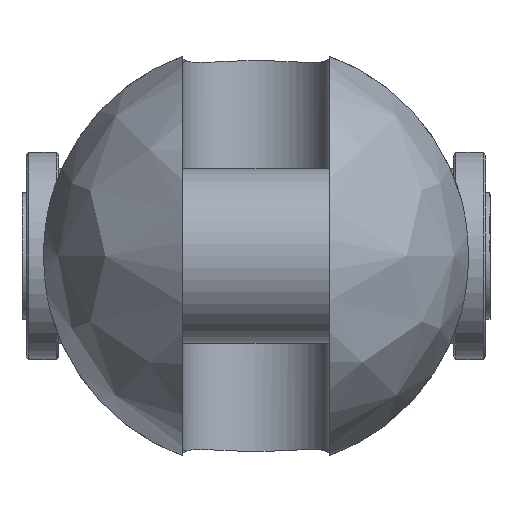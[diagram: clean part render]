
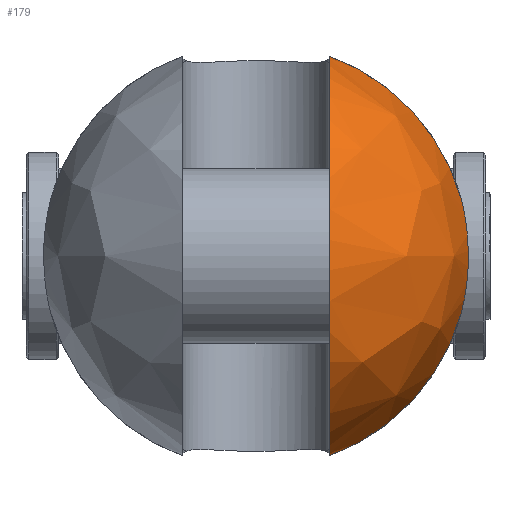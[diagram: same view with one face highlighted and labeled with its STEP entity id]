
A CAD part, left-side view. The second image highlights one B-rep face of the part: STEP entity #179.
In plain terms, the highlighted free-form (B-spline) face has degree [2, 2] with [9, 5] control points.
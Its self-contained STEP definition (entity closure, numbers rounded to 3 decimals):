
#179=ADVANCED_FACE('',(#320),#2417,.T.);
#320=FACE_OUTER_BOUND('',#481,.T.);
#481=EDGE_LOOP('',(#1194,#1195,#1196,#1197));
#1194=ORIENTED_EDGE('',*,*,#1575,.T.);
#1195=ORIENTED_EDGE('',*,*,#1603,.F.);
#1196=ORIENTED_EDGE('',*,*,#1615,.T.);
#1197=ORIENTED_EDGE('',*,*,#1595,.F.);
#1575=EDGE_CURVE('',#2249,#2248,#1983,.T.);
#1595=EDGE_CURVE('',#2249,#2261,#1993,.T.);
#1603=EDGE_CURVE('',#2268,#2248,#1994,.T.);
#1615=EDGE_CURVE('',#2268,#2261,#1789,.T.);
#1789=B_SPLINE_CURVE_WITH_KNOTS('',3,(#6107,#6108,#6109,#6110,#6111,#6112,
#6113,#6114,#6115,#6116,#6117,#6118,#6119,#6120),.UNSPECIFIED.,.F.,.F.,
(4,2,2,2,2,2,4),(0.,1.605,6.417,11.229,
16.04,20.852,22.457),.UNSPECIFIED.);
#1983=(
BOUNDED_CURVE()
B_SPLINE_CURVE(2,(#5883,#5884,#5885,#5886,#5887),.UNSPECIFIED.,.F.,.F.)
B_SPLINE_CURVE_WITH_KNOTS((3,2,3),(-114.948,-57.474,
0.),.UNSPECIFIED.)
CURVE()
GEOMETRIC_REPRESENTATION_ITEM()
RATIONAL_B_SPLINE_CURVE((1.,0.707,1.,0.707,1.))
REPRESENTATION_ITEM('')
);
#1993=(
BOUNDED_CURVE()
B_SPLINE_CURVE(2,(#5977,#5978,#5979),.UNSPECIFIED.,.F.,.F.)
B_SPLINE_CURVE_WITH_KNOTS((3,3),(0.,36.808),.UNSPECIFIED.)
CURVE()
GEOMETRIC_REPRESENTATION_ITEM()
RATIONAL_B_SPLINE_CURVE((1.,0.891,1.))
REPRESENTATION_ITEM('')
);
#1994=(
BOUNDED_CURVE()
B_SPLINE_CURVE(2,(#6034,#6035,#6036),.UNSPECIFIED.,.F.,.F.)
B_SPLINE_CURVE_WITH_KNOTS((3,3),(0.,36.808),.UNSPECIFIED.)
CURVE()
GEOMETRIC_REPRESENTATION_ITEM()
RATIONAL_B_SPLINE_CURVE((1.,0.891,1.))
REPRESENTATION_ITEM('')
);
#2248=VERTEX_POINT('',#5767);
#2249=VERTEX_POINT('',#5768);
#2261=VERTEX_POINT('',#5780);
#2268=VERTEX_POINT('',#5787);
#2417=(
BOUNDED_SURFACE()
B_SPLINE_SURFACE(2,2,((#5481,#5482,#5483,#5484,#5485),(#5486,#5487,#5488,
#5489,#5490),(#5491,#5492,#5493,#5494,#5495),(#5496,#5497,#5498,#5499,#5500),
(#5501,#5502,#5503,#5504,#5505),(#5506,#5507,#5508,#5509,#5510),(#5511,
#5512,#5513,#5514,#5515),(#5516,#5517,#5518,#5519,#5520),(#5521,#5522,#5523,
#5524,#5525)),.UNSPECIFIED.,.T.,.F.,.F.)
B_SPLINE_SURFACE_WITH_KNOTS((3,2,2,2,3),(3,2,3),(0.,61.261,122.522,
183.783,245.044),(0.,61.261,122.522),
 .UNSPECIFIED.)
GEOMETRIC_REPRESENTATION_ITEM()
RATIONAL_B_SPLINE_SURFACE(((1.,0.707,1.,0.707,1.),
(0.707,0.5,0.707,0.5,0.707),(1.,0.707,
1.,0.707,1.),(0.707,0.5,0.707,0.5,0.707),
(1.,0.707,1.,0.707,1.),(0.707,0.5,0.707,
0.5,0.707),(1.,0.707,1.,0.707,1.),(0.707,
0.5,0.707,0.5,0.707),(1.,0.707,1.,0.707,
1.)))
REPRESENTATION_ITEM('')
SURFACE()
);
#5481=CARTESIAN_POINT('',(-56.,0.,0.));
#5482=CARTESIAN_POINT('',(-56.,39.,0.));
#5483=CARTESIAN_POINT('',(-17.,39.,0.));
#5484=CARTESIAN_POINT('',(22.,39.,0.));
#5485=CARTESIAN_POINT('',(22.,0.,0.));
#5486=CARTESIAN_POINT('',(-56.,0.,0.));
#5487=CARTESIAN_POINT('',(-56.,39.,39.));
#5488=CARTESIAN_POINT('',(-17.,39.,39.));
#5489=CARTESIAN_POINT('',(22.,39.,39.));
#5490=CARTESIAN_POINT('',(22.,0.,0.));
#5491=CARTESIAN_POINT('',(-56.,0.,0.));
#5492=CARTESIAN_POINT('',(-56.,0.,39.));
#5493=CARTESIAN_POINT('',(-17.,0.,39.));
#5494=CARTESIAN_POINT('',(22.,0.,39.));
#5495=CARTESIAN_POINT('',(22.,0.,0.));
#5496=CARTESIAN_POINT('',(-56.,0.,0.));
#5497=CARTESIAN_POINT('',(-56.,-39.,39.));
#5498=CARTESIAN_POINT('',(-17.,-39.,39.));
#5499=CARTESIAN_POINT('',(22.,-39.,39.));
#5500=CARTESIAN_POINT('',(22.,0.,0.));
#5501=CARTESIAN_POINT('',(-56.,0.,0.));
#5502=CARTESIAN_POINT('',(-56.,-39.,0.));
#5503=CARTESIAN_POINT('',(-17.,-39.,0.));
#5504=CARTESIAN_POINT('',(22.,-39.,0.));
#5505=CARTESIAN_POINT('',(22.,0.,0.));
#5506=CARTESIAN_POINT('',(-56.,0.,0.));
#5507=CARTESIAN_POINT('',(-56.,-39.,-39.));
#5508=CARTESIAN_POINT('',(-17.,-39.,-39.));
#5509=CARTESIAN_POINT('',(22.,-39.,-39.));
#5510=CARTESIAN_POINT('',(22.,0.,0.));
#5511=CARTESIAN_POINT('',(-56.,0.,0.));
#5512=CARTESIAN_POINT('',(-56.,0.,-39.));
#5513=CARTESIAN_POINT('',(-17.,0.,-39.));
#5514=CARTESIAN_POINT('',(22.,0.,-39.));
#5515=CARTESIAN_POINT('',(22.,0.,0.));
#5516=CARTESIAN_POINT('',(-56.,0.,0.));
#5517=CARTESIAN_POINT('',(-56.,39.,-39.));
#5518=CARTESIAN_POINT('',(-17.,39.,-39.));
#5519=CARTESIAN_POINT('',(22.,39.,-39.));
#5520=CARTESIAN_POINT('',(22.,0.,0.));
#5521=CARTESIAN_POINT('',(-56.,0.,0.));
#5522=CARTESIAN_POINT('',(-56.,39.,0.));
#5523=CARTESIAN_POINT('',(-17.,39.,0.));
#5524=CARTESIAN_POINT('',(22.,39.,0.));
#5525=CARTESIAN_POINT('',(22.,0.,0.));
#5767=CARTESIAN_POINT('',(-17.,-13.5,-36.589));
#5768=CARTESIAN_POINT('',(-17.,-13.5,36.589));
#5780=CARTESIAN_POINT('',(-17.,-37.55,10.536));
#5787=CARTESIAN_POINT('',(-17.,-37.55,-10.536));
#5883=CARTESIAN_POINT('',(-17.,-13.5,36.589));
#5884=CARTESIAN_POINT('',(-53.589,-13.5,36.589));
#5885=CARTESIAN_POINT('',(-53.589,-13.5,0.));
#5886=CARTESIAN_POINT('',(-53.589,-13.5,-36.589));
#5887=CARTESIAN_POINT('',(-17.,-13.5,-36.589));
#5977=CARTESIAN_POINT('',(-17.,-13.5,36.589));
#5978=CARTESIAN_POINT('',(-17.,-32.173,29.699));
#5979=CARTESIAN_POINT('',(-17.,-37.55,10.536));
#6034=CARTESIAN_POINT('',(-17.,-37.55,-10.536));
#6035=CARTESIAN_POINT('',(-17.,-32.173,-29.699));
#6036=CARTESIAN_POINT('',(-17.,-13.5,-36.589));
#6107=CARTESIAN_POINT('',(-17.,-37.55,-10.536));
#6108=CARTESIAN_POINT('',(-17.277,-37.675,-10.089));
#6109=CARTESIAN_POINT('',(-17.537,-37.793,-9.629));
#6110=CARTESIAN_POINT('',(-18.506,-38.227,-7.749));
#6111=CARTESIAN_POINT('',(-19.068,-38.475,-6.24));
#6112=CARTESIAN_POINT('',(-19.816,-38.804,-3.143));
#6113=CARTESIAN_POINT('',(-20.,-38.884,-1.556));
#6114=CARTESIAN_POINT('',(-20.,-38.884,1.556));
#6115=CARTESIAN_POINT('',(-19.816,-38.804,3.143));
#6116=CARTESIAN_POINT('',(-19.068,-38.475,6.24));
#6117=CARTESIAN_POINT('',(-18.506,-38.227,7.749));
#6118=CARTESIAN_POINT('',(-17.537,-37.793,9.629));
#6119=CARTESIAN_POINT('',(-17.277,-37.675,10.089));
#6120=CARTESIAN_POINT('',(-17.,-37.55,10.536));
